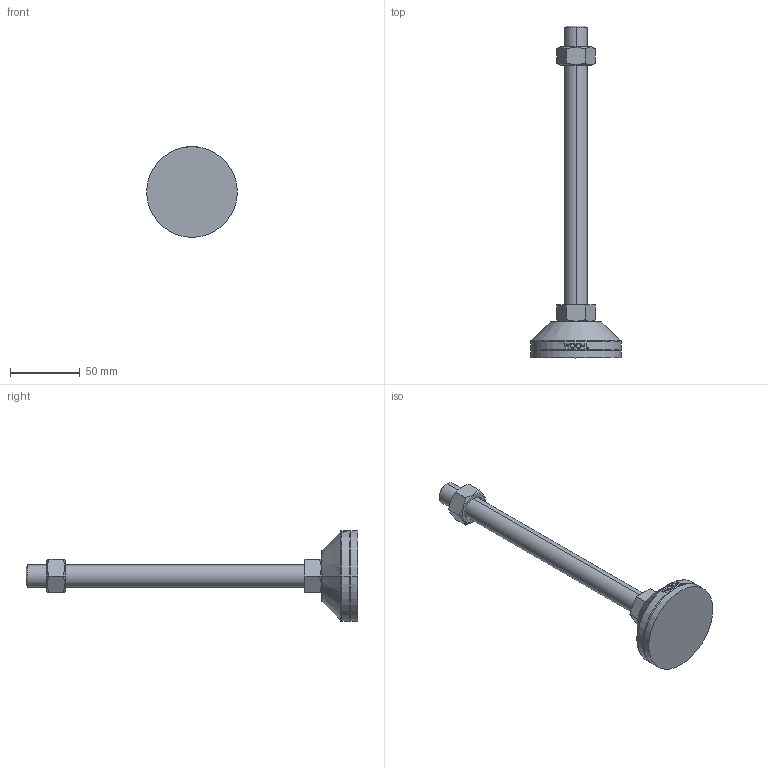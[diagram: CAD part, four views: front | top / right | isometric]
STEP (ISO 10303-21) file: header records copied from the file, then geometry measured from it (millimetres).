
FILE_DESCRIPTION (( 'STEP AP214' ), '1' );
FILE_NAME ('NHNR65-M16-200.step', '2021-01-25T06:17:41', ( '' ), ( '' ), 'SwSTEP 2.0', 'SolidWorks 2019', '' );
FILE_SCHEMA (( 'AUTOMOTIVE_DESIGN' ));
Length unit declared in the file: millimetre
Products named in the file (2): NHNR65-M16-200
Bounding box: 65 x 238 x 65 mm (x, y, z)
Volume: 117771.3 mm3; surface area: 30979.6 mm2
Topology: 4 solids, 4 shells, 105 faces, 239 edges, 152 vertices
Faces by surface type: plane 49, cylinder 18, bspline 16, cone 14, torus 8
Entity records: 4363 total; most frequent: CARTESIAN_POINT 2046, ORIENTED_EDGE 478, DIRECTION 429, EDGE_CURVE 239, AXIS2_PLACEMENT_3D 165, VERTEX_POINT 152, EDGE_LOOP 117, ADVANCED_FACE 105
